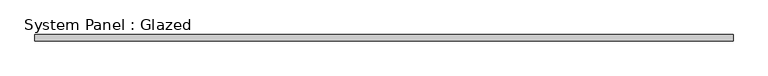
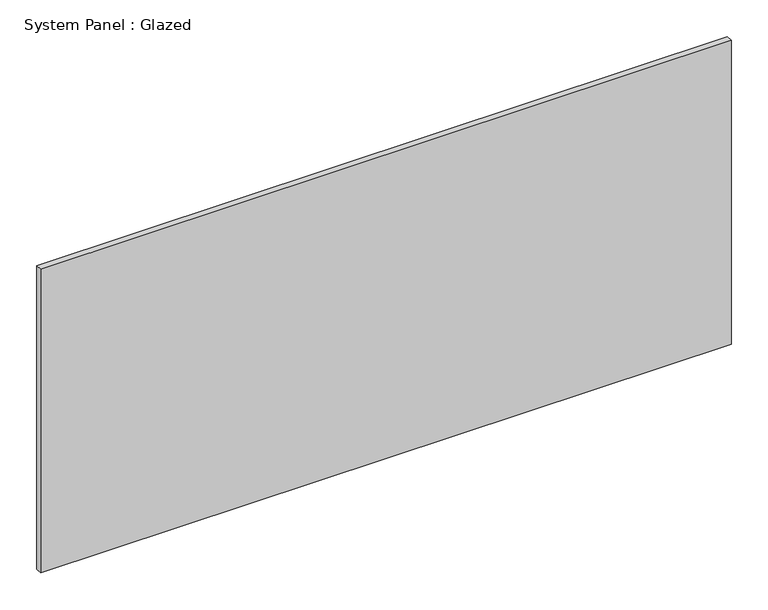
"""IFC4 building model written with IfcOpenShell, lengths in millimetres: plate geometry, System Panel : Glazed."""

from ifc_helpers import new_model, si_unit, origin, origin_with_axes, place, context, project, spatial, polyline, outline, extrude, source, transform, mapped, element, save


def system_panel_glazed_5093aaaf(model_context):
    return source(origin(), model_context, "Body", "SweptSolid", [
        extrude(outline(polyline([(541.2142184, -5.0), (-541.2142184, -5.0), (-541.2142184, 5.0), (541.2142184, 5.0), (541.2142184, -5.0)])), origin_with_axes(), (0.0, 0.0, 1.0), 503.3333333),
    ])


if __name__ == "__main__":
    model = new_model("IFC4")
    model_context = context("Model", 3, world=origin())
    ifc_project = project(units=[si_unit("LENGTHUNIT", "METRE", prefix="MILLI")], contexts=[model_context])
    site = spatial("IfcSite", under=ifc_project)
    building = spatial("IfcBuilding", under=site)
    placement = place(None, origin())
    system_panel_glazed_shape = system_panel_glazed_5093aaaf(model_context)
    element("IfcPlate", 1, ObjectType="System Panel : Glazed", at=placement, inside=building, context=model_context, shape_type="MappedRepresentation", body=[
        mapped(system_panel_glazed_shape, transform((0.0, 0.0, 0.0), x_axis=(1.0, 0.0, 0.0), y_axis=(0.0, 1.0, 0.0), z_axis=(0.0, 0.0, 1.0))),
    ])
    save(model, "model.ifc")
